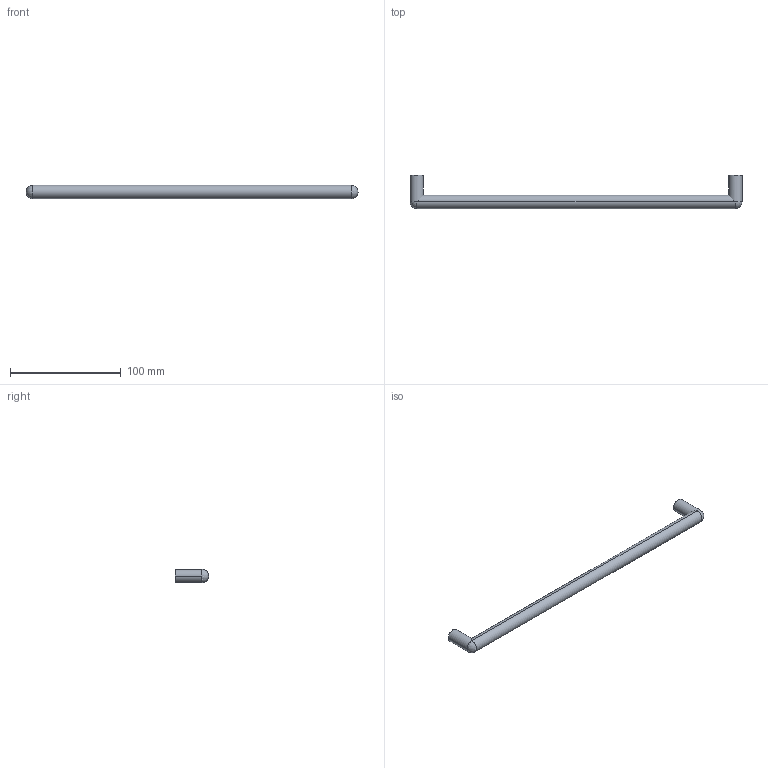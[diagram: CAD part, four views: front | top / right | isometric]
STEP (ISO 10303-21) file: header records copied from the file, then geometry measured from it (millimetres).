
FILE_DESCRIPTION( ( '' ), '1' );
FILE_NAME( 'D:/1.AUTOCAD EXPORT/Group 10/sheet_10_1/ 9070995.stp', '2013-10-17T08:22:01', ( '' ), ( '' ), ' ', ' ', ' ' );
FILE_SCHEMA( ( 'automotive_design' ) );
Length unit declared in the file: millimetre
Products named in the file (1): 1
Bounding box: 300 x 30 x 12 mm (x, y, z)
Volume: 37484.4 mm3; surface area: 13145.5 mm2
Topology: 1 solids, 1 shells, 16 faces, 36 edges, 20 vertices
Faces by surface type: cylinder 10, plane 4, sphere 2
Entity records: 838 total; most frequent: DIRECTION 88, STYLED_ITEM 69, PRESENTATION_STYLE_ASSIGNMENT 69, CARTESIAN_POINT 69, COLOUR_RGB 69, ORIENTED_EDGE 64, AXIS2_PLACEMENT_3D 39, EDGE_CURVE 32
